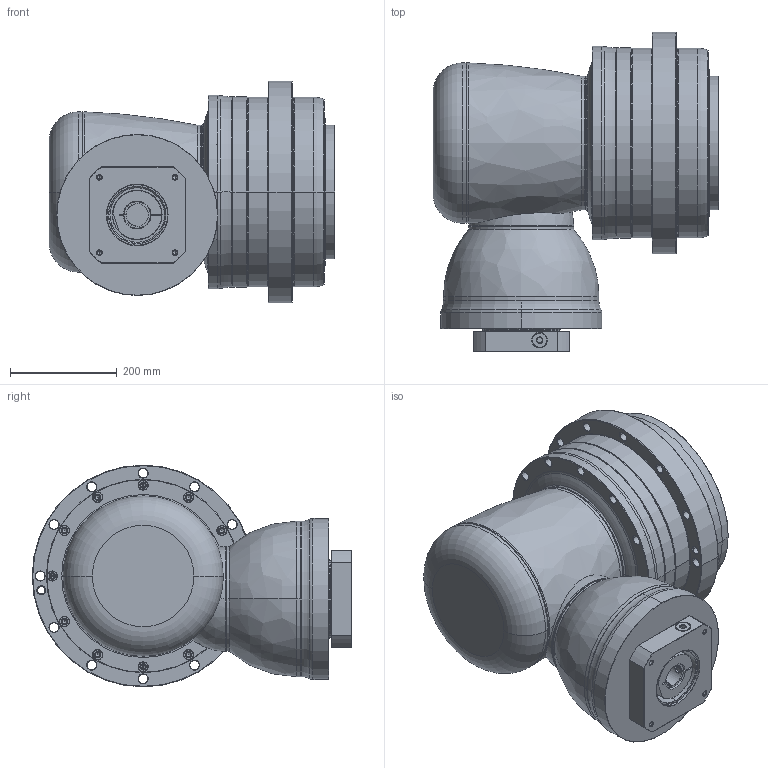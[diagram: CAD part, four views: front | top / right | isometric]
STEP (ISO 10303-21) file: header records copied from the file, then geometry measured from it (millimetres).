
FILE_DESCRIPTION((''),'2;1');
FILE_NAME('AHK355_2ST_42-P0409A00101_ASM','2016-08-24T',('d01943'),(''),'PRO/ENGINEER BY PARAMETRIC TECHNOLOGY CORPORATION, 2008410','PRO/ENGINEER BY PARAMETRIC TECHNOLOGY CORPORATION, 2008410','');
FILE_SCHEMA(('CONFIG_CONTROL_DESIGN'));
Length unit declared in the file: millimetre
Products named in the file (12): P1008800002; P1831100001; P0276100003; P0357100003; P1315800001; P1007800001; P1318800201; P0409A00101; P0503A00012; P0912802201; 21711422019; AHK355_2ST_42-P0409A00101_ASM
Assembly tree (11 placements, depth 2):
  AHK355_2ST_42-P0409A00101_ASM
    P1008800002
    P1831100001
    P0276100003
    P0357100003
    P1315800001
    P1007800001
    P1318800201
    P0409A00101
    P0503A00012
    P0912802201
    21711422019
Bounding box: 535 x 598 x 415 mm (x, y, z)
Volume: 43949258.8 mm3; surface area: 2328572 mm2
Topology: 12 solids, 12 shells, 962 faces, 2135 edges, 1233 vertices
Faces by surface type: cylinder 343, cone 338, torus 130, plane 125, bspline 24, sphere 2
Entity records: 31652 total; most frequent: CARTESIAN_POINT 9634, DIRECTION 5095, ORIENTED_EDGE 4154, AXIS2_PLACEMENT_3D 2173, EDGE_CURVE 2077, VERTEX_POINT 1233, CIRCLE 1212, EDGE_LOOP 1158
